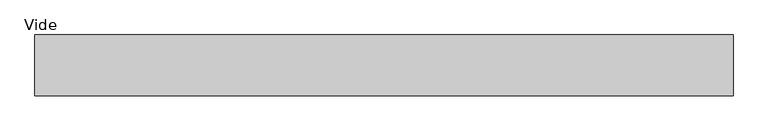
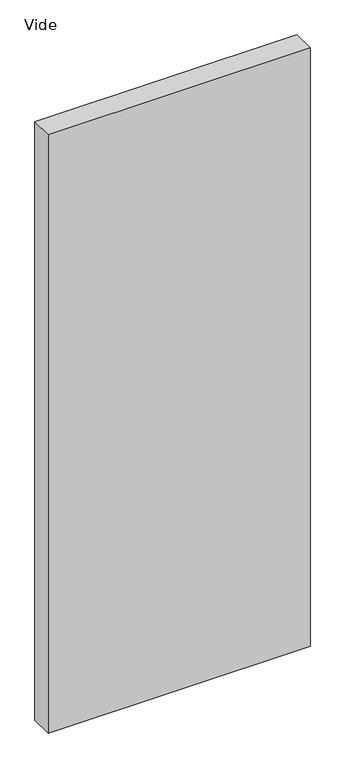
"""IFC4 building model written with IfcOpenShell, lengths in millimetres: plate geometry, Panneau système vide : Vide."""

import ifcopenshell
import ifcopenshell.guid

model = None  # the IFC model being written
_history = None  # IfcOwnerHistory: only IFC2X3 demands one
_inside = {}  # id of a spatial element -> (the spatial element, [elements in it])
_under = {}  # id of a project, library or spatial element -> (it, [spatial elements below it])
_declared = {}  # id of a project -> (the project, [libraries it declares])
_typed = {}  # id of a type object -> (the type object, [elements of that type])
_made_of = {}  # id of a material, layer set ... -> (it, [elements and type objects made of it])


def new_model(schema):
    """Start an empty IFC model of exactly this schema.

    Asked for "IFC4X3", IfcOpenShell would pick the latest addendum, in which some entities
    have other attributes; the version numbers below select the first issue.
    IFC2X3 requires an IfcOwnerHistory on every rooted entity: one is made here for all.
    """
    global model, _history
    if schema == "IFC4X3":
        model = ifcopenshell.file(schema_version=(4, 3, 0, 0))
    else:
        model = ifcopenshell.file(schema=schema)
    _inside.clear()
    _under.clear()
    _declared.clear()
    _typed.clear()
    _made_of.clear()
    _history = None
    if model.schema == "IFC2X3":
        org = make("IfcOrganization", Name="unknown")
        user = make(
            "IfcPersonAndOrganization",
            ThePerson=make("IfcPerson", FamilyName="unknown"),
            TheOrganization=org,
        )
        app = make(
            "IfcApplication",
            ApplicationDeveloper=org,
            Version="unknown",
            ApplicationFullName="unknown",
            ApplicationIdentifier="unknown",
        )
        _history = make(
            "IfcOwnerHistory",
            OwningUser=user,
            OwningApplication=app,
            ChangeAction="ADDED",
            CreationDate=0,
        )
    return model


def make(cls, **values):
    """One entity of the class cls with the attributes given. An attribute that is None is left unset."""
    return model.create_entity(
        cls, **{name: value for name, value in values.items() if value is not None}
    )


def rooted(cls, **values):
    """An entity with a GlobalId (a new one), such as an element, a storey or a relation."""
    return make(cls, GlobalId=ifcopenshell.guid.new(), OwnerHistory=_history, **values)


def si_unit(unit_type, name, prefix=None):
    """IfcSIUnit, for example si_unit("LENGTHUNIT", "METRE", prefix="MILLI")."""
    return make("IfcSIUnit", UnitType=unit_type, Prefix=prefix, Name=name)


def assignment(units):
    """IfcUnitAssignment: the units of a project."""
    return None if units is None else make("IfcUnitAssignment", Units=units)


def point(xyz):
    """IfcCartesianPoint."""
    return None if xyz is None else make("IfcCartesianPoint", Coordinates=xyz)


def direction(xyz):
    """IfcDirection."""
    return None if xyz is None else make("IfcDirection", DirectionRatios=xyz)


def frame(location, z_axis=None, x_axis=None):
    """IfcAxis2Placement3D, a coordinate frame: its origin and axes. An axis left out is left unset."""
    return make(
        "IfcAxis2Placement3D",
        Location=point(location),
        Axis=direction(z_axis),
        RefDirection=direction(x_axis),
    )


def origin():
    """The frame at (0, 0, 0) with its axes left unset."""
    return frame((0.0, 0.0, 0.0))


def origin_with_axes():
    """The frame at (0, 0, 0) with the z axis (0, 0, 1) and the x axis (1, 0, 0) written out."""
    return frame((0.0, 0.0, 0.0), z_axis=(0.0, 0.0, 1.0), x_axis=(1.0, 0.0, 0.0))


def place(relative_to, where):
    """IfcLocalPlacement: puts the frame where relative to a parent placement (None: the world)."""
    return make(
        "IfcLocalPlacement", PlacementRelTo=relative_to, RelativePlacement=where
    )


def context(
    kind, dimensions, precision=None, world=None, true_north=None, identifier=None
):
    """IfcGeometricRepresentationContext, for example the 3D "Model" context."""
    return make(
        "IfcGeometricRepresentationContext",
        ContextIdentifier=identifier,
        ContextType=kind,
        CoordinateSpaceDimension=dimensions,
        Precision=precision,
        WorldCoordinateSystem=world,
        TrueNorth=true_north,
    )


def project(units=None, contexts=None):
    """IfcProject with its units and contexts."""
    return rooted(
        "IfcProject",
        Name="project",
        RepresentationContexts=contexts,
        UnitsInContext=assignment(units),
    )


def spatial(cls, under=None, at=None, **own):
    """A site, building, storey or space (cls), placed at a placement, below another one or the project."""
    s = rooted(cls, ObjectPlacement=at, **own)
    if under is not None:
        _under.setdefault(under.id(), (under, []))[1].append(s)
    return s


def polyline(points):
    """IfcPolyline through the points."""
    return make("IfcPolyline", Points=[point(p) for p in points])


def outline(outer, holes=None, kind="AREA"):
    """IfcArbitraryClosedProfileDef: a profile drawn as a closed curve; with holes, ...WithVoids."""
    if holes is None:
        return make("IfcArbitraryClosedProfileDef", ProfileType=kind, OuterCurve=outer)
    return make(
        "IfcArbitraryProfileDefWithVoids",
        ProfileType=kind,
        OuterCurve=outer,
        InnerCurves=holes,
    )


def extrude(swept, where, along, depth):
    """IfcExtrudedAreaSolid: the profile swept, set in the frame where, extruded along a direction by depth."""
    return make(
        "IfcExtrudedAreaSolid",
        SweptArea=swept,
        Position=where,
        ExtrudedDirection=direction(along),
        Depth=depth,
    )


def shape(context_of_items, identifier, shape_type, items):
    """IfcShapeRepresentation: the items that make up one representation, for example the "Body"."""
    return make(
        "IfcShapeRepresentation",
        ContextOfItems=context_of_items,
        RepresentationIdentifier=identifier,
        RepresentationType=shape_type,
        Items=items,
    )


def source(mapping_origin, context_of_items, identifier, shape_type, items):
    """IfcRepresentationMap: a shape defined once, which mapped items show again and again."""
    return make(
        "IfcRepresentationMap",
        MappingOrigin=mapping_origin,
        MappedRepresentation=shape(context_of_items, identifier, shape_type, items),
    )


def transform(
    local_origin,
    x_axis=None,
    y_axis=None,
    z_axis=None,
    scale=None,
    scale2=None,
    scale3=None,
    uniform=True,
):
    """IfcCartesianTransformationOperator3D, or its non-uniform kind. x_axis, y_axis, z_axis: its Axis1, 2, 3."""
    if uniform:
        return make(
            "IfcCartesianTransformationOperator3D",
            Axis1=direction(x_axis),
            Axis2=direction(y_axis),
            LocalOrigin=point(local_origin),
            Scale=scale,
            Axis3=direction(z_axis),
        )
    return make(
        "IfcCartesianTransformationOperator3DnonUniform",
        Axis1=direction(x_axis),
        Axis2=direction(y_axis),
        LocalOrigin=point(local_origin),
        Scale=scale,
        Axis3=direction(z_axis),
        Scale2=scale2,
        Scale3=scale3,
    )


def mapped(mapping_source, mapping_target):
    """IfcMappedItem: shows the shape of a source again, moved by a transform."""
    return make(
        "IfcMappedItem", MappingSource=mapping_source, MappingTarget=mapping_target
    )


def made_of(thing, what):
    """Note that an element or type object is made of a material, layer set ...; save() writes the relation."""
    if what is not None:
        _made_of.setdefault(what.id(), (what, []))[1].append(thing)
    return thing


def element(
    cls,
    number,
    at=None,
    inside=None,
    cuts=None,
    type_object=None,
    material=None,
    context=None,
    identifier="Body",
    shape_type=None,
    held_by="IfcProductDefinitionShape",
    body=None,
    shapes=None,
    **own,
):
    """One element of the class cls, such as IfcWall. Its Tag is "e" and its number.

    at: its placement. inside: the storey or other place that contains it. cuts: it is an
    opening in that element (IfcRelVoidsElement). A single representation is given by context,
    identifier, shape_type and body (its items); several are given by shapes. held_by: the class
    of the entity that holds the representations. save() writes the other relations.
    """
    e = rooted(cls, Tag="e%d" % number, ObjectPlacement=at, **own)
    if body is not None:
        shapes = [shape(context, identifier, shape_type, body)]
    if shapes is not None:
        e.Representation = make(held_by, Representations=shapes)
    if inside is not None:
        _inside.setdefault(inside.id(), (inside, []))[1].append(e)
    if cuts is not None:
        rooted(
            "IfcRelVoidsElement", RelatingBuildingElement=cuts, RelatedOpeningElement=e
        )
    if type_object is not None:
        _typed.setdefault(type_object.id(), (type_object, []))[1].append(e)
    return made_of(e, material)


def aggregate(whole, parts):
    """IfcRelAggregates: a whole, such as a stair, and the parts it consists of."""
    return rooted("IfcRelAggregates", RelatingObject=whole, RelatedObjects=parts)


def save(model, path):
    """Write the relations noted so far, then the file.

    IfcRelAggregates (storeys below a building ...), IfcRelContainedInSpatialStructure (elements
    in a storey), IfcRelDefinesByType, IfcRelAssociatesMaterial and IfcRelDeclares: one each for
    every whole, place, type object, material and project.
    """
    for whole, parts in _under.values():
        aggregate(whole, parts)
    for where, things in _inside.values():
        rooted(
            "IfcRelContainedInSpatialStructure",
            RelatedElements=things,
            RelatingStructure=where,
        )
    for kind, things in _typed.values():
        rooted("IfcRelDefinesByType", RelatedObjects=things, RelatingType=kind)
    for what, things in _made_of.values():
        rooted("IfcRelAssociatesMaterial", RelatedObjects=things, RelatingMaterial=what)
    for by, libraries in _declared.values():
        rooted("IfcRelDeclares", RelatingContext=by, RelatedDefinitions=libraries)
    model.write(path)


def vide_59922d02(model_context):
    return source(origin(), model_context, "Body", "SweptSolid", [
        extrude(outline(polyline([(574.3313582, -150.0), (-574.3313582, -150.0), (-574.3313582, -50.0), (574.3313582, -50.0), (574.3313582, -150.0)])), origin_with_axes(), (0.0, 0.0, 1.0), 2773.6074061),
    ])


if __name__ == "__main__":
    model = new_model("IFC4")
    model_context = context("Model", 3, world=origin())
    ifc_project = project(units=[si_unit("LENGTHUNIT", "METRE", prefix="MILLI")], contexts=[model_context])
    site = spatial("IfcSite", under=ifc_project)
    building = spatial("IfcBuilding", under=site)
    placement = place(None, origin())
    vide_shape = vide_59922d02(model_context)
    element("IfcPlate", 1, ObjectType="Panneau système vide : Vide", at=placement, inside=building, context=model_context, shape_type="MappedRepresentation", body=[
        mapped(vide_shape, transform((0.0, 0.0, 0.0), x_axis=(1.0, 0.0, 0.0), y_axis=(0.0, 1.0, 0.0), z_axis=(0.0, 0.0, 1.0))),
    ])
    save(model, "model.ifc")
